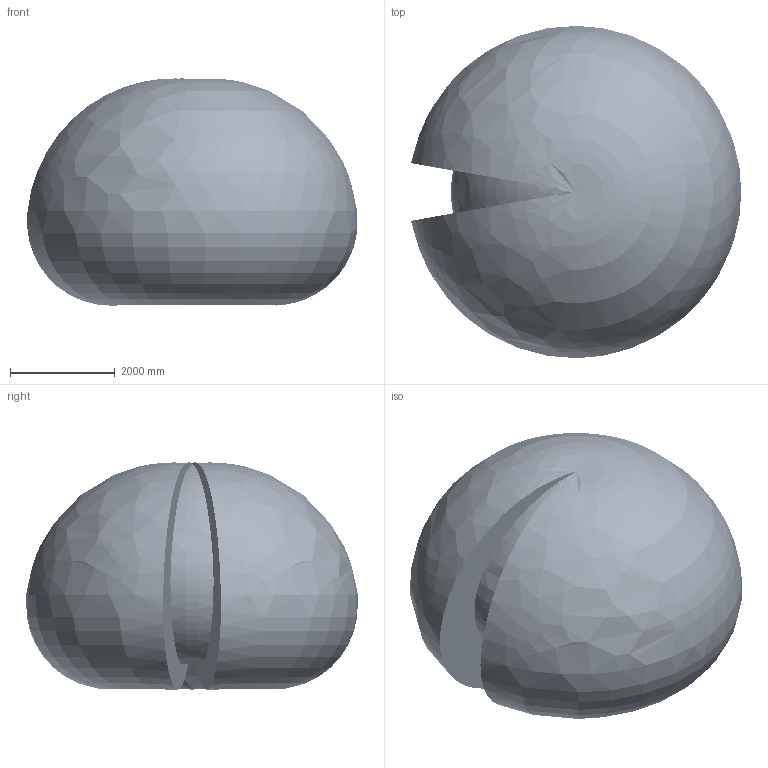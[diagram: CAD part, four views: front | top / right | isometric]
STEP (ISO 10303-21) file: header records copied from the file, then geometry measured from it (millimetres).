
FILE_DESCRIPTION (( 'STEP AP214' ), '1' );
FILE_NAME ('IRB6760-MH3_200kg-320_OC_00_ASM_CAD.step', '2025-09-30T13:13:53', ( '' ), ( '' ), 'SwSTEP 2.0', 'SolidWorks 2024', '' );
FILE_SCHEMA (( 'AUTOMOTIVE_DESIGN' ));
Length unit declared in the file: millimetre
Products named in the file (19): IRB6760_All-320_OC_00_LINK06_CAD; IRB6760_All-320_OC_00_LINK05_CAD; IRB6760-MH3_200kg-320_OC_00_LINK04_CABLE; IRB6760-MH3_All_OC_00_LINK03b_CABLE; IRB6760_All_OC_00_CYL_CAD; IRB6760_All-320_OC_00_LINK04_CAD; IRB6760_All_OC_00_LINK02m_CABLE; IRB6760-MH3_All_OC_00_LINK02_CABLE; IRB6760-MH3_All_OC_00_LINK03a_CABLE; IRB6760-MH3_200kg-320_OC_00_ASM_CAD; IRB6760_All-320_OC_00_Working-envelope; IRB6760_All_OC_00_LINK01_CAD; IRB6760-MH3_All_OC_00_LINK01_CABLE; IRB6760_All_OC_00_BASE_CAD; IRB6760_All_OC_00_LINK03_CAD; IRB6760_All_OC_00_LINK02_CAD; IRB6760_All_OC_00_LINK01m_CABLE; IRB6760_All_OC_00_LINK03m_CABLE; IRB6760_All_OC_00_ROD_CAD
Assembly tree (18 placements, depth 2):
  IRB6760-MH3_200kg-320_OC_00_ASM_CAD
    IRB6760_All_OC_00_BASE_CAD
    IRB6760_All_OC_00_LINK01_CAD
    IRB6760_All_OC_00_LINK02_CAD
    IRB6760_All_OC_00_LINK03_CAD
    IRB6760_All_OC_00_CYL_CAD
    IRB6760_All_OC_00_ROD_CAD
    IRB6760_All-320_OC_00_LINK04_CAD
    IRB6760_All-320_OC_00_LINK05_CAD
    IRB6760_All-320_OC_00_LINK06_CAD
    IRB6760-MH3_All_OC_00_LINK01_CABLE
    IRB6760-MH3_All_OC_00_LINK02_CABLE
    IRB6760-MH3_All_OC_00_LINK03a_CABLE
    IRB6760-MH3_All_OC_00_LINK03b_CABLE
    IRB6760_All_OC_00_LINK02m_CABLE
    IRB6760_All_OC_00_LINK03m_CABLE
    IRB6760_All_OC_00_LINK01m_CABLE
    IRB6760-MH3_200kg-320_OC_00_LINK04_CABLE
    IRB6760_All-320_OC_00_Working-envelope
Bounding box: 6289.14 x 6325.68 x 4327.53 mm (x, y, z)
Volume: 90003661526.6 mm3; surface area: 148861246.9 mm2
Topology: 19 solids, 27 shells, 8847 faces, 22760 edges, 14540 vertices
Faces by surface type: plane 4201, cylinder 2407, cone 1303, bspline 704, torus 219, sphere 13
Entity records: 471881 total; most frequent: CARTESIAN_POINT 183770, ORIENTED_EDGE 45164, DIRECTION 41435, EDGE_CURVE 22582, AXIS2_PLACEMENT_3D 15149, VERTEX_POINT 14538, VECTOR 11137, LINE 11137
